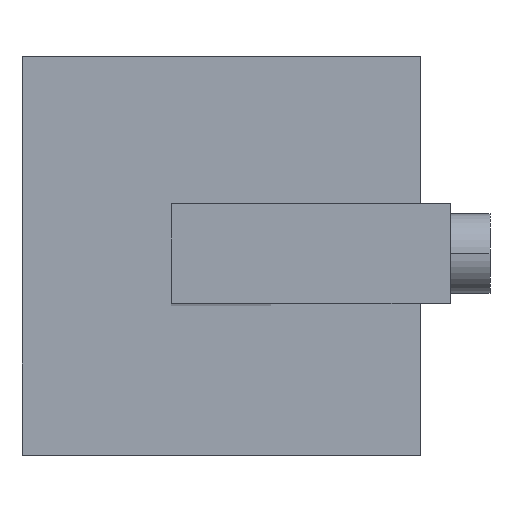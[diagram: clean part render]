
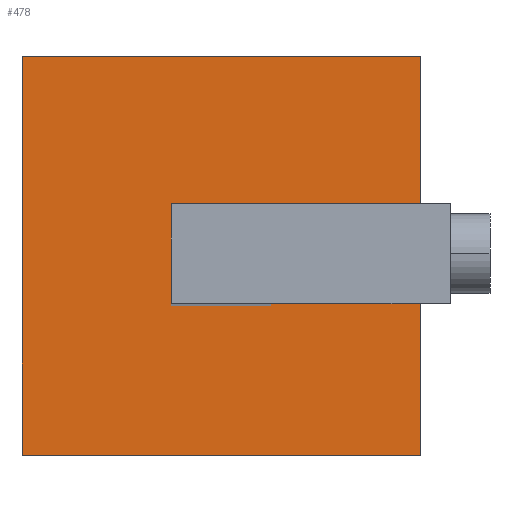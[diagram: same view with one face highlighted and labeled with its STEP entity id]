
A CAD part, top view. The second image highlights one B-rep face of the part: STEP entity #478.
In plain terms, the highlighted planar face has unit normal (0, 0, 1).
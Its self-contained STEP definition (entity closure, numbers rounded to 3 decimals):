
#4 = EDGE_CURVE ( 'NONE', #492, #544, #193, .T. ) ;
#11 = CARTESIAN_POINT ( 'NONE',  ( 15.388, 0., 0. ) ) ;
#14 = DIRECTION ( 'NONE',  ( 0., 1., 0. ) ) ;
#17 = VECTOR ( 'NONE', #280, 1000. ) ;
#18 = VERTEX_POINT ( 'NONE', #366 ) ;
#24 = CARTESIAN_POINT ( 'NONE',  ( -9.612, 25., 0. ) ) ;
#27 = DIRECTION ( 'NONE',  ( 0., -1., 0. ) ) ;
#45 = DIRECTION ( 'NONE',  ( -1., 0., 0. ) ) ;
#53 = CARTESIAN_POINT ( 'NONE',  ( -9.612, 25., 0. ) ) ;
#69 = EDGE_LOOP ( 'NONE', ( #362, #371, #333, #563 ) ) ;
#90 = DIRECTION ( 'NONE',  ( 0., 1., 0. ) ) ;
#107 = VECTOR ( 'NONE', #90, 1000. ) ;
#117 = ORIENTED_EDGE ( 'NONE', *, *, #374, .F. ) ;
#120 = LINE ( 'NONE', #467, #129 ) ;
#123 = CARTESIAN_POINT ( 'NONE',  ( 52.888, 62.5, 0. ) ) ;
#129 = VECTOR ( 'NONE', #202, 1000. ) ;
#133 = EDGE_CURVE ( 'NONE', #18, #492, #316, .T. ) ;
#165 = EDGE_CURVE ( 'NONE', #317, #18, #561, .T. ) ;
#193 = LINE ( 'NONE', #359, #444 ) ;
#202 = DIRECTION ( 'NONE',  ( 1., 0., 0. ) ) ;
#220 = EDGE_LOOP ( 'NONE', ( #117, #502, #500, #394 ) ) ;
#229 = CARTESIAN_POINT ( 'NONE',  ( 52.888, 62.5, 0. ) ) ;
#232 = EDGE_CURVE ( 'NONE', #578, #494, #499, .T. ) ;
#261 = LINE ( 'NONE', #337, #107 ) ;
#280 = DIRECTION ( 'NONE',  ( 1., 0., 0. ) ) ;
#291 = CARTESIAN_POINT ( 'NONE',  ( 52.888, 62.5, 0. ) ) ;
#300 = CARTESIAN_POINT ( 'NONE',  ( -9.612, 0., 0. ) ) ;
#316 = LINE ( 'NONE', #481, #597 ) ;
#317 = VERTEX_POINT ( 'NONE', #229 ) ;
#332 = FACE_OUTER_BOUND ( 'NONE', #69, .T. ) ;
#333 = ORIENTED_EDGE ( 'NONE', *, *, #4, .F. ) ;
#337 = CARTESIAN_POINT ( 'NONE',  ( 15.388, 0., 0. ) ) ;
#357 = CARTESIAN_POINT ( 'NONE',  ( -47.112, -37.5, 0. ) ) ;
#359 = CARTESIAN_POINT ( 'NONE',  ( -47.112, 62.5, 0. ) ) ;
#362 = ORIENTED_EDGE ( 'NONE', *, *, #165, .F. ) ;
#364 = EDGE_CURVE ( 'NONE', #523, #590, #568, .T. ) ;
#366 = CARTESIAN_POINT ( 'NONE',  ( 52.888, -37.5, 0. ) ) ;
#371 = ORIENTED_EDGE ( 'NONE', *, *, #490, .F. ) ;
#373 = AXIS2_PLACEMENT_3D ( 'NONE', #291, #649, #45 ) ;
#374 = EDGE_CURVE ( 'NONE', #590, #578, #261, .T. ) ;
#394 = ORIENTED_EDGE ( 'NONE', *, *, #232, .F. ) ;
#397 = CARTESIAN_POINT ( 'NONE',  ( -9.612, 0., 0. ) ) ;
#400 = PLANE ( 'NONE',  #373 ) ;
#401 = LINE ( 'NONE', #300, #619 ) ;
#405 = CARTESIAN_POINT ( 'NONE',  ( -47.112, 62.5, 0. ) ) ;
#414 = VECTOR ( 'NONE', #636, 1000. ) ;
#418 = EDGE_CURVE ( 'NONE', #494, #523, #401, .T. ) ;
#444 = VECTOR ( 'NONE', #14, 1000. ) ;
#457 = CARTESIAN_POINT ( 'NONE',  ( 15.388, 25., 0. ) ) ;
#467 = CARTESIAN_POINT ( 'NONE',  ( 52.888, 62.5, 0. ) ) ;
#469 = VECTOR ( 'NONE', #27, 1000. ) ;
#478 = ADVANCED_FACE ( 'NONE', ( #332, #529 ), #400, .F. ) ;
#481 = CARTESIAN_POINT ( 'NONE',  ( 52.888, -37.5, 0. ) ) ;
#490 = EDGE_CURVE ( 'NONE', #544, #317, #120, .T. ) ;
#492 = VERTEX_POINT ( 'NONE', #357 ) ;
#494 = VERTEX_POINT ( 'NONE', #53 ) ;
#499 = LINE ( 'NONE', #24, #414 ) ;
#500 = ORIENTED_EDGE ( 'NONE', *, *, #418, .F. ) ;
#502 = ORIENTED_EDGE ( 'NONE', *, *, #364, .F. ) ;
#523 = VERTEX_POINT ( 'NONE', #397 ) ;
#527 = DIRECTION ( 'NONE',  ( -1., 0., 0. ) ) ;
#529 = FACE_BOUND ( 'NONE', #220, .T. ) ;
#544 = VERTEX_POINT ( 'NONE', #405 ) ;
#550 = DIRECTION ( 'NONE',  ( 0., -1., 0. ) ) ;
#561 = LINE ( 'NONE', #123, #469 ) ;
#563 = ORIENTED_EDGE ( 'NONE', *, *, #133, .F. ) ;
#568 = LINE ( 'NONE', #588, #17 ) ;
#578 = VERTEX_POINT ( 'NONE', #457 ) ;
#588 = CARTESIAN_POINT ( 'NONE',  ( -9.612, 0., 0. ) ) ;
#590 = VERTEX_POINT ( 'NONE', #11 ) ;
#597 = VECTOR ( 'NONE', #527, 1000. ) ;
#619 = VECTOR ( 'NONE', #550, 1000. ) ;
#636 = DIRECTION ( 'NONE',  ( -1., 0., 0. ) ) ;
#649 = DIRECTION ( 'NONE',  ( 0., 0., -1. ) ) ;
